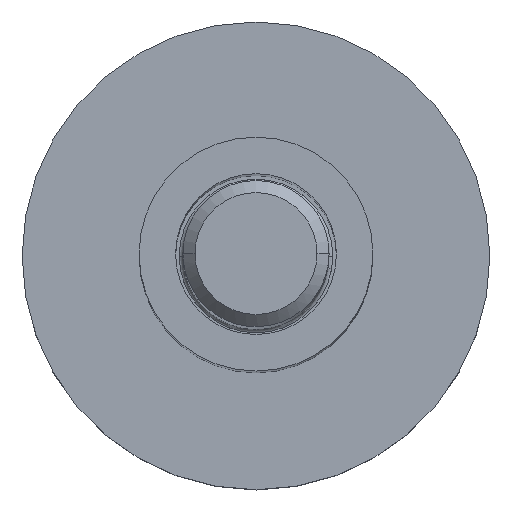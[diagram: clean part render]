
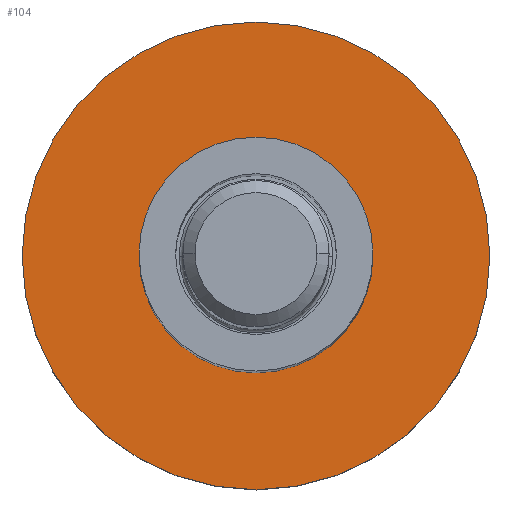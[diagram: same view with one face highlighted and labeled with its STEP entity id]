
A CAD part, top view. The second image highlights one B-rep face of the part: STEP entity #104.
In plain terms, the highlighted planar face has unit normal (0, 0, 1).
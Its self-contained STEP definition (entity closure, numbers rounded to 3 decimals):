
#63=CARTESIAN_POINT('Axis2P3D Location',(0.,0.,5.)) ;
#68=CARTESIAN_POINT('Axis2P3D Location',(0.,0.,5.)) ;
#72=CARTESIAN_POINT('Vertex',(-16.,0.,5.)) ;
#74=CARTESIAN_POINT('Vertex',(16.,0.,5.)) ;
#77=CARTESIAN_POINT('Axis2P3D Location',(0.,0.,5.)) ;
#86=CARTESIAN_POINT('Axis2P3D Location',(0.,0.,5.)) ;
#90=CARTESIAN_POINT('Vertex',(-8.,0.,5.)) ;
#92=CARTESIAN_POINT('Vertex',(8.,0.,5.)) ;
#95=CARTESIAN_POINT('Axis2P3D Location',(0.,0.,5.)) ;
#64=DIRECTION('Axis2P3D Direction',(0.,0.,1.)) ;
#65=DIRECTION('Axis2P3D XDirection',(1.,0.,0.)) ;
#69=DIRECTION('Axis2P3D Direction',(0.,0.,1.)) ;
#78=DIRECTION('Axis2P3D Direction',(0.,0.,1.)) ;
#87=DIRECTION('Axis2P3D Direction',(0.,0.,1.)) ;
#96=DIRECTION('Axis2P3D Direction',(0.,0.,1.)) ;
#66=AXIS2_PLACEMENT_3D('Plane Axis2P3D',#63,#64,#65) ;
#70=AXIS2_PLACEMENT_3D('Circle Axis2P3D',#68,#69,$) ;
#79=AXIS2_PLACEMENT_3D('Circle Axis2P3D',#77,#78,$) ;
#88=AXIS2_PLACEMENT_3D('Circle Axis2P3D',#86,#87,$) ;
#97=AXIS2_PLACEMENT_3D('Circle Axis2P3D',#95,#96,$) ;
#83=ORIENTED_EDGE('',*,*,#76,.T.) ;
#84=ORIENTED_EDGE('',*,*,#81,.T.) ;
#101=ORIENTED_EDGE('',*,*,#94,.F.) ;
#102=ORIENTED_EDGE('',*,*,#99,.F.) ;
#103=FACE_BOUND('',#100,.T.) ;
#104=ADVANCED_FACE('NONE',(#85,#103),#67,.T.) ;
#71=CIRCLE('generated circle',#70,16.) ;
#80=CIRCLE('generated circle',#79,16.) ;
#89=CIRCLE('generated circle',#88,8.) ;
#98=CIRCLE('generated circle',#97,8.) ;
#76=EDGE_CURVE('',#73,#75,#71,.T.) ;
#81=EDGE_CURVE('',#75,#73,#80,.T.) ;
#94=EDGE_CURVE('',#91,#93,#89,.T.) ;
#99=EDGE_CURVE('',#93,#91,#98,.T.) ;
#82=EDGE_LOOP('',(#83,#84)) ;
#100=EDGE_LOOP('',(#101,#102)) ;
#85=FACE_OUTER_BOUND('',#82,.T.) ;
#67=PLANE('Plane',#66) ;
#73=VERTEX_POINT('',#72) ;
#75=VERTEX_POINT('',#74) ;
#91=VERTEX_POINT('',#90) ;
#93=VERTEX_POINT('',#92) ;
